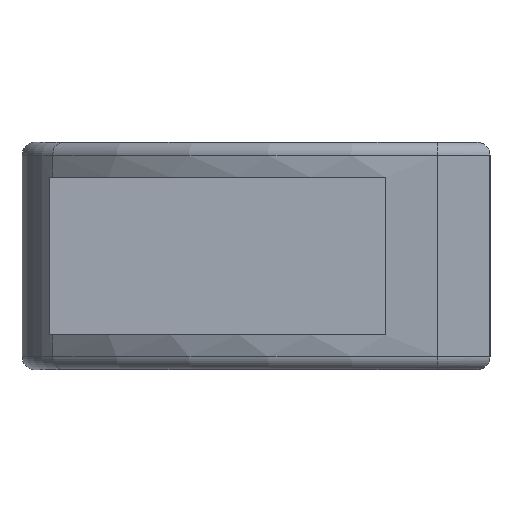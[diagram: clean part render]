
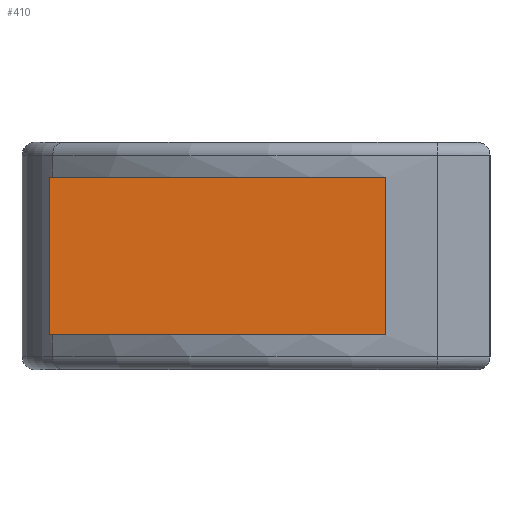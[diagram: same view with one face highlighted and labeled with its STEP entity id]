
A CAD part, left-side view. The second image highlights one B-rep face of the part: STEP entity #410.
In plain terms, the highlighted planar face has unit normal (-1, 0, 0).
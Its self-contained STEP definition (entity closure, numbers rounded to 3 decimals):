
#41 = LINE ( 'NONE', #711, #2087 ) ;
#53 = EDGE_LOOP ( 'NONE', ( #2112, #639, #1366, #1552 ) ) ;
#183 = FACE_OUTER_BOUND ( 'NONE', #53, .T. ) ;
#193 = DIRECTION ( 'NONE',  ( 0., 0., 1. ) ) ;
#212 = CARTESIAN_POINT ( 'NONE',  ( -63.5, 12., -9. ) ) ;
#372 = CARTESIAN_POINT ( 'NONE',  ( -63.5, 50.336, -9. ) ) ;
#410 = ADVANCED_FACE ( 'NONE', ( #183 ), #862, .F. ) ;
#441 = CARTESIAN_POINT ( 'NONE',  ( -63.5, 12., 9. ) ) ;
#480 = VERTEX_POINT ( 'NONE', #552 ) ;
#499 = VERTEX_POINT ( 'NONE', #1724 ) ;
#527 = DIRECTION ( 'NONE',  ( 1., 0., 0. ) ) ;
#550 = DIRECTION ( 'NONE',  ( 0., 1., 0. ) ) ;
#552 = CARTESIAN_POINT ( 'NONE',  ( -63.5, 50.336, -9. ) ) ;
#639 = ORIENTED_EDGE ( 'NONE', *, *, #853, .F. ) ;
#711 = CARTESIAN_POINT ( 'NONE',  ( -63.5, 50.336, -9. ) ) ;
#724 = CARTESIAN_POINT ( 'NONE',  ( -63.5, 50.336, 9. ) ) ;
#821 = VECTOR ( 'NONE', #193, 1000. ) ;
#853 = EDGE_CURVE ( 'NONE', #480, #1244, #41, .T. ) ;
#862 = PLANE ( 'NONE',  #1870 ) ;
#887 = LINE ( 'NONE', #724, #979 ) ;
#941 = VERTEX_POINT ( 'NONE', #441 ) ;
#944 = VECTOR ( 'NONE', #550, 1000. ) ;
#979 = VECTOR ( 'NONE', #1386, 1000. ) ;
#1244 = VERTEX_POINT ( 'NONE', #1795 ) ;
#1331 = EDGE_CURVE ( 'NONE', #499, #941, #2038, .T. ) ;
#1366 = ORIENTED_EDGE ( 'NONE', *, *, #2084, .F. ) ;
#1372 = DIRECTION ( 'NONE',  ( 0., 0., 1. ) ) ;
#1386 = DIRECTION ( 'NONE',  ( 0., 1., 0. ) ) ;
#1524 = CARTESIAN_POINT ( 'NONE',  ( -63.5, 50.336, -9. ) ) ;
#1552 = ORIENTED_EDGE ( 'NONE', *, *, #1331, .T. ) ;
#1724 = CARTESIAN_POINT ( 'NONE',  ( -63.5, 12., -9. ) ) ;
#1795 = CARTESIAN_POINT ( 'NONE',  ( -63.5, 50.336, 9. ) ) ;
#1857 = LINE ( 'NONE', #372, #944 ) ;
#1859 = DIRECTION ( 'NONE',  ( 0., 0., -1. ) ) ;
#1870 = AXIS2_PLACEMENT_3D ( 'NONE', #1524, #527, #1859 ) ;
#1894 = EDGE_CURVE ( 'NONE', #941, #1244, #887, .T. ) ;
#2038 = LINE ( 'NONE', #212, #821 ) ;
#2084 = EDGE_CURVE ( 'NONE', #499, #480, #1857, .T. ) ;
#2087 = VECTOR ( 'NONE', #1372, 1000. ) ;
#2112 = ORIENTED_EDGE ( 'NONE', *, *, #1894, .T. ) ;
